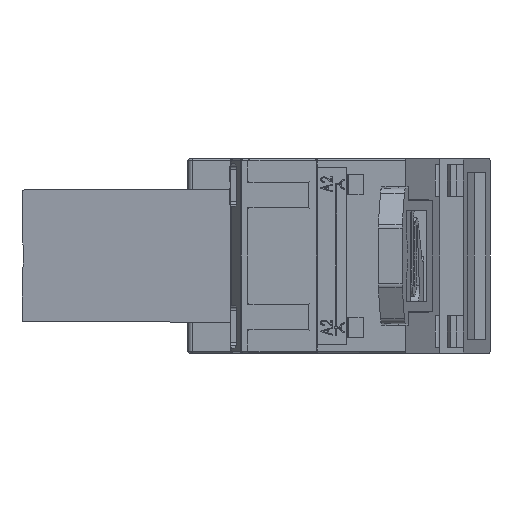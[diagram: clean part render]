
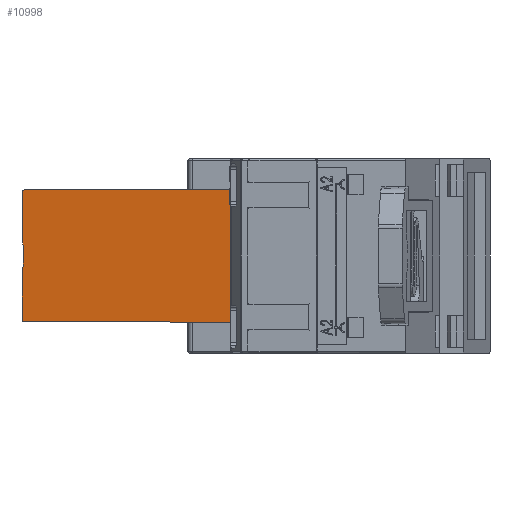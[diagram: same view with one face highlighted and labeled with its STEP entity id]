
A CAD part, left-side view. The second image highlights one B-rep face of the part: STEP entity #10998.
In plain terms, the highlighted planar face has unit normal (-0.99, 0.142, 0) as drawn and (-1, 0.004, 0) by its records, which use the part's own axes.
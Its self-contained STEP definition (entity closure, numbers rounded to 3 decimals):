
#368 = ORIENTED_EDGE ( 'NONE', *, *, #43196, .F. ) ;
#607 = CARTESIAN_POINT ( 'NONE',  ( -13.351, 35.066, -1.48 ) ) ;
#1399 = CARTESIAN_POINT ( 'NONE',  ( -13.351, 35.067, -1.506 ) ) ;
#1596 = VERTEX_POINT ( 'NONE', #42048 ) ;
#2414 = EDGE_CURVE ( 'NONE', #11634, #29172, #69319, .T. ) ;
#3889 = VERTEX_POINT ( 'NONE', #101266 ) ;
#4499 = VERTEX_POINT ( 'NONE', #15083 ) ;
#4530 = EDGE_LOOP ( 'NONE', ( #95955, #55988, #368, #103347, #95459, #14124, #58355, #8391, #9179, #38795, #84246, #95587 ) ) ;
#4948 = CARTESIAN_POINT ( 'NONE',  ( -13.35, 35.262, -2.481 ) ) ;
#5197 = DIRECTION ( 'NONE',  ( -0.001, -0.196, 0.981 ) ) ;
#5541 = EDGE_CURVE ( 'NONE', #90741, #20509, #87186, .T. ) ;
#7010 = DIRECTION ( 'NONE',  ( 0., 0., 1. ) ) ;
#8391 = ORIENTED_EDGE ( 'NONE', *, *, #69999, .T. ) ;
#8474 = EDGE_CURVE ( 'NONE', #1596, #96034, #95637, .T. ) ;
#8768 = VERTEX_POINT ( 'NONE', #94533 ) ;
#9179 = ORIENTED_EDGE ( 'NONE', *, *, #86299, .F. ) ;
#10998 = ADVANCED_FACE ( 'NONE', ( #76094 ), #104098, .T. ) ;
#11634 = VERTEX_POINT ( 'NONE', #73444 ) ;
#13110 = CARTESIAN_POINT ( 'NONE',  ( -13.35, 35.265, -2.494 ) ) ;
#14124 = ORIENTED_EDGE ( 'NONE', *, *, #2414, .F. ) ;
#14830 = DIRECTION ( 'NONE',  ( -1., 0.004, 0. ) ) ;
#15083 = CARTESIAN_POINT ( 'NONE',  ( -13.351, 35.07, 1.519 ) ) ;
#15267 = EDGE_CURVE ( 'NONE', #1596, #22925, #77584, .T. ) ;
#15495 = EDGE_CURVE ( 'NONE', #3889, #29172, #48790, .T. ) ;
#17624 = LINE ( 'NONE', #28644, #79693 ) ;
#20409 = CARTESIAN_POINT ( 'NONE',  ( -13.351, 35.066, 1.48 ) ) ;
#20509 = VERTEX_POINT ( 'NONE', #82917 ) ;
#21299 = CARTESIAN_POINT ( 'NONE',  ( -13.35, 35.266, -2.52 ) ) ;
#21824 = EDGE_CURVE ( 'NONE', #89002, #3889, #61584, .T. ) ;
#22787 =( BOUNDED_CURVE ( )  B_SPLINE_CURVE ( 3, ( #60770, #101148, #68885, #20409 ),
 .UNSPECIFIED., .F., .F. ) 
 B_SPLINE_CURVE_WITH_KNOTS ( ( 4, 4 ),
 ( 6.086, 6.283 ),
 .UNSPECIFIED. ) 
 CURVE ( )  GEOMETRIC_REPRESENTATION_ITEM ( )  RATIONAL_B_SPLINE_CURVE ( ( 1., 0.997, 0.997, 1. ) ) 
 REPRESENTATION_ITEM ( '' )  );
#22925 = VERTEX_POINT ( 'NONE', #82746 ) ;
#25877 = CARTESIAN_POINT ( 'NONE',  ( -13.351, 35.07, -1.519 ) ) ;
#26176 = CARTESIAN_POINT ( 'NONE',  ( -13.5, 0.966, 10.5 ) ) ;
#28644 = CARTESIAN_POINT ( 'NONE',  ( -13.35, 35.266, -10.351 ) ) ;
#29172 = VERTEX_POINT ( 'NONE', #96165 ) ;
#30103 = CARTESIAN_POINT ( 'NONE',  ( -13.35, 35.266, -10.351 ) ) ;
#30104 = CARTESIAN_POINT ( 'NONE',  ( -13.35, 35.266, 2.507 ) ) ;
#32554 = EDGE_CURVE ( 'NONE', #90741, #96034, #85263, .T. ) ;
#34299 = DIRECTION ( 'NONE',  ( 0., 0., 1. ) ) ;
#34690 = CARTESIAN_POINT ( 'NONE',  ( -13.349, 35.485, 3.596 ) ) ;
#36373 = VECTOR ( 'NONE', #103067, 1000. ) ;
#38795 = ORIENTED_EDGE ( 'NONE', *, *, #58752, .T. ) ;
#39285 = CARTESIAN_POINT ( 'NONE',  ( -13.35, 35.266, 2.52 ) ) ;
#40034 = VECTOR ( 'NONE', #79782, 1000. ) ;
#41815 = CARTESIAN_POINT ( 'NONE',  ( -13.351, 35.066, -1.493 ) ) ;
#42048 = CARTESIAN_POINT ( 'NONE',  ( -13.35, 35.262, -2.481 ) ) ;
#43196 = EDGE_CURVE ( 'NONE', #89002, #22925, #57932, .T. ) ;
#46421 = CARTESIAN_POINT ( 'NONE',  ( -13.35, 35.262, 2.481 ) ) ;
#48790 = LINE ( 'NONE', #26176, #67690 ) ;
#50638 = DIRECTION ( 'NONE',  ( 0.001, 0.196, 0.981 ) ) ;
#51096 = LINE ( 'NONE', #34690, #72625 ) ;
#53634 = EDGE_CURVE ( 'NONE', #75845, #11634, #17624, .T. ) ;
#54138 = DIRECTION ( 'NONE',  ( -0.004, -1., 0.004 ) ) ;
#55988 = ORIENTED_EDGE ( 'NONE', *, *, #15267, .T. ) ;
#57932 = LINE ( 'NONE', #30103, #36373 ) ;
#58355 = ORIENTED_EDGE ( 'NONE', *, *, #53634, .F. ) ;
#58752 = EDGE_CURVE ( 'NONE', #4499, #20509, #22787, .T. ) ;
#59703 =( BOUNDED_CURVE ( )  B_SPLINE_CURVE ( 3, ( #86737, #30104, #94868, #46421 ),
 .UNSPECIFIED., .F., .F. ) 
 B_SPLINE_CURVE_WITH_KNOTS ( ( 4, 4 ),
 ( 3.142, 3.339 ),
 .UNSPECIFIED. ) 
 CURVE ( )  GEOMETRIC_REPRESENTATION_ITEM ( )  RATIONAL_B_SPLINE_CURVE ( ( 1., 0.997, 0.997, 1. ) ) 
 REPRESENTATION_ITEM ( '' )  );
#60770 = CARTESIAN_POINT ( 'NONE',  ( -13.351, 35.07, 1.519 ) ) ;
#61152 = DIRECTION ( 'NONE',  ( 0., 0., 1. ) ) ;
#61584 = LINE ( 'NONE', #63493, #40034 ) ;
#63103 = VECTOR ( 'NONE', #61152, 1000. ) ;
#63493 = CARTESIAN_POINT ( 'NONE',  ( -13.5, 1.058, -10.5 ) ) ;
#66760 = VECTOR ( 'NONE', #54138, 1000. ) ;
#67690 = VECTOR ( 'NONE', #34299, 1000. ) ;
#68885 = CARTESIAN_POINT ( 'NONE',  ( -13.351, 35.066, 1.493 ) ) ;
#69319 = LINE ( 'NONE', #77821, #66760 ) ;
#69748 = CARTESIAN_POINT ( 'NONE',  ( -13.35, 35.266, -2.507 ) ) ;
#69991 = CARTESIAN_POINT ( 'NONE',  ( -13.367, 31.447, 16.596 ) ) ;
#69999 = EDGE_CURVE ( 'NONE', #75845, #8768, #59703, .T. ) ;
#72625 = VECTOR ( 'NONE', #50638, 1000. ) ;
#73444 = CARTESIAN_POINT ( 'NONE',  ( -13.35, 35.266, 10.35 ) ) ;
#74337 = CARTESIAN_POINT ( 'NONE',  ( -13.351, 35.066, -1.48 ) ) ;
#75845 = VERTEX_POINT ( 'NONE', #39285 ) ;
#76094 = FACE_OUTER_BOUND ( 'NONE', #4530, .T. ) ;
#77140 = DIRECTION ( 'NONE',  ( 0., 0., 1. ) ) ;
#77584 =( BOUNDED_CURVE ( )  B_SPLINE_CURVE ( 3, ( #4948, #13110, #69748, #21299 ),
 .UNSPECIFIED., .F., .F. ) 
 B_SPLINE_CURVE_WITH_KNOTS ( ( 4, 4 ),
 ( 6.086, 6.283 ),
 .UNSPECIFIED. ) 
 CURVE ( )  GEOMETRIC_REPRESENTATION_ITEM ( )  RATIONAL_B_SPLINE_CURVE ( ( 1., 0.997, 0.997, 1. ) ) 
 REPRESENTATION_ITEM ( '' )  );
#77821 = CARTESIAN_POINT ( 'NONE',  ( -13.499, 1.084, 10.499 ) ) ;
#79693 = VECTOR ( 'NONE', #77140, 1000. ) ;
#79782 = DIRECTION ( 'NONE',  ( -0.004, -1., -0.004 ) ) ;
#81980 = CARTESIAN_POINT ( 'NONE',  ( -13.351, 35.07, -1.519 ) ) ;
#82746 = CARTESIAN_POINT ( 'NONE',  ( -13.35, 35.266, -2.52 ) ) ;
#82917 = CARTESIAN_POINT ( 'NONE',  ( -13.351, 35.066, 1.48 ) ) ;
#84246 = ORIENTED_EDGE ( 'NONE', *, *, #5541, .F. ) ;
#85217 = CARTESIAN_POINT ( 'NONE',  ( -13.351, 35.066, 10.5 ) ) ;
#85263 =( BOUNDED_CURVE ( )  B_SPLINE_CURVE ( 3, ( #74337, #41815, #1399, #25877 ),
 .UNSPECIFIED., .F., .F. ) 
 B_SPLINE_CURVE_WITH_KNOTS ( ( 4, 4 ),
 ( 0., 0.197 ),
 .UNSPECIFIED. ) 
 CURVE ( )  GEOMETRIC_REPRESENTATION_ITEM ( )  RATIONAL_B_SPLINE_CURVE ( ( 1., 0.997, 0.997, 1. ) ) 
 REPRESENTATION_ITEM ( '' )  );
#86299 = EDGE_CURVE ( 'NONE', #4499, #8768, #51096, .T. ) ;
#86737 = CARTESIAN_POINT ( 'NONE',  ( -13.35, 35.266, 2.52 ) ) ;
#87186 = LINE ( 'NONE', #85217, #63103 ) ;
#87289 = AXIS2_PLACEMENT_3D ( 'NONE', #95909, #14830, #7010 ) ;
#89002 = VERTEX_POINT ( 'NONE', #104421 ) ;
#90741 = VERTEX_POINT ( 'NONE', #607 ) ;
#93079 = VECTOR ( 'NONE', #5197, 1000. ) ;
#94533 = CARTESIAN_POINT ( 'NONE',  ( -13.35, 35.262, 2.481 ) ) ;
#94868 = CARTESIAN_POINT ( 'NONE',  ( -13.35, 35.265, 2.494 ) ) ;
#95459 = ORIENTED_EDGE ( 'NONE', *, *, #15495, .T. ) ;
#95587 = ORIENTED_EDGE ( 'NONE', *, *, #32554, .T. ) ;
#95637 = LINE ( 'NONE', #69991, #93079 ) ;
#95909 = CARTESIAN_POINT ( 'NONE',  ( -13.5, 0.966, 10.5 ) ) ;
#95955 = ORIENTED_EDGE ( 'NONE', *, *, #8474, .F. ) ;
#96034 = VERTEX_POINT ( 'NONE', #81980 ) ;
#96165 = CARTESIAN_POINT ( 'NONE',  ( -13.5, 0.966, 10.5 ) ) ;
#101148 = CARTESIAN_POINT ( 'NONE',  ( -13.351, 35.067, 1.506 ) ) ;
#101266 = CARTESIAN_POINT ( 'NONE',  ( -13.5, 0.966, -10.5 ) ) ;
#103067 = DIRECTION ( 'NONE',  ( 0., 0., 1. ) ) ;
#103347 = ORIENTED_EDGE ( 'NONE', *, *, #21824, .T. ) ;
#104098 = PLANE ( 'NONE',  #87289 ) ;
#104421 = CARTESIAN_POINT ( 'NONE',  ( -13.35, 35.266, -10.35 ) ) ;
